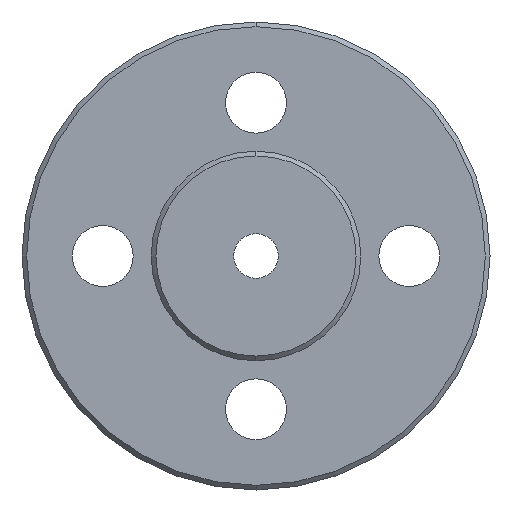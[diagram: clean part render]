
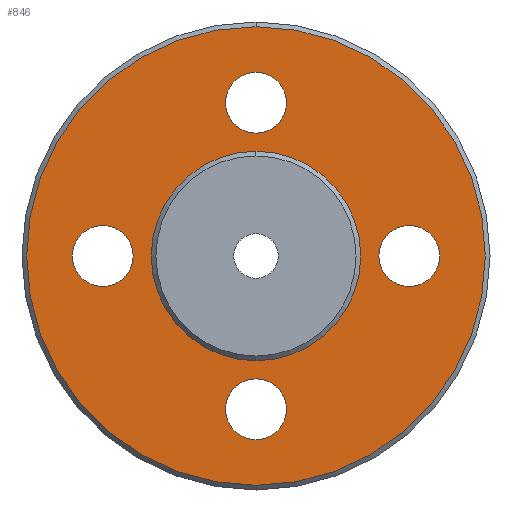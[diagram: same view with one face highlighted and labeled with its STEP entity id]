
A CAD part, front view. The second image highlights one B-rep face of the part: STEP entity #846.
In plain terms, the highlighted planar face has unit normal (0, -1, 0).
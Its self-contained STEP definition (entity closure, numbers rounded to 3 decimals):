
#6 = VERTEX_POINT ( 'NONE', #169 ) ;
#30 = AXIS2_PLACEMENT_3D ( 'NONE', #887, #1357, #306 ) ;
#35 = CIRCLE ( 'NONE', #439, 1.3 ) ;
#58 = DIRECTION ( 'NONE',  ( 0., 1., 0. ) ) ;
#70 = CARTESIAN_POINT ( 'NONE',  ( 0., 0., 4.475 ) ) ;
#75 = AXIS2_PLACEMENT_3D ( 'NONE', #2570, #1455, #1257 ) ;
#77 = DIRECTION ( 'NONE',  ( 0., -1., 0. ) ) ;
#121 = ORIENTED_EDGE ( 'NONE', *, *, #703, .T. ) ;
#154 = DIRECTION ( 'NONE',  ( 0., 0., 1. ) ) ;
#166 = AXIS2_PLACEMENT_3D ( 'NONE', #2412, #1138, #482 ) ;
#169 = CARTESIAN_POINT ( 'NONE',  ( 6.55, 0., -1.3 ) ) ;
#288 = CARTESIAN_POINT ( 'NONE',  ( 0., 0., 0. ) ) ;
#293 = DIRECTION ( 'NONE',  ( 0., 1., 0. ) ) ;
#306 = DIRECTION ( 'NONE',  ( 0., 0., 1. ) ) ;
#340 = DIRECTION ( 'NONE',  ( 0., 0., 1. ) ) ;
#351 = DIRECTION ( 'NONE',  ( 0., -1., 0. ) ) ;
#380 = AXIS2_PLACEMENT_3D ( 'NONE', #2110, #596, #1003 ) ;
#383 = DIRECTION ( 'NONE',  ( 0., -1., 0. ) ) ;
#417 = CARTESIAN_POINT ( 'NONE',  ( 0., 0., 0. ) ) ;
#418 = CIRCLE ( 'NONE', #595, 1.3 ) ;
#424 = ORIENTED_EDGE ( 'NONE', *, *, #2773, .F. ) ;
#438 = DIRECTION ( 'NONE',  ( 0., 0., 1. ) ) ;
#439 = AXIS2_PLACEMENT_3D ( 'NONE', #1281, #1061, #1485 ) ;
#478 = CARTESIAN_POINT ( 'NONE',  ( -6.55, 0., 0. ) ) ;
#482 = DIRECTION ( 'NONE',  ( 0., 0., 1. ) ) ;
#493 = DIRECTION ( 'NONE',  ( 0., 0., 1. ) ) ;
#554 = ORIENTED_EDGE ( 'NONE', *, *, #1495, .T. ) ;
#595 = AXIS2_PLACEMENT_3D ( 'NONE', #2057, #2322, #1216 ) ;
#596 = DIRECTION ( 'NONE',  ( 0., -1., 0. ) ) ;
#652 = EDGE_CURVE ( 'NONE', #715, #1320, #1508, .T. ) ;
#664 = FACE_BOUND ( 'NONE', #669, .T. ) ;
#669 = EDGE_LOOP ( 'NONE', ( #2764, #121 ) ) ;
#703 = EDGE_CURVE ( 'NONE', #2314, #1529, #35, .T. ) ;
#715 = VERTEX_POINT ( 'NONE', #1688 ) ;
#732 = CIRCLE ( 'NONE', #1048, 1.3 ) ;
#829 = EDGE_CURVE ( 'NONE', #1223, #1883, #1097, .T. ) ;
#846 = ADVANCED_FACE ( 'NONE', ( #1784, #664, #1110, #1342, #1974, #1765 ), #2624, .F. ) ;
#847 = VERTEX_POINT ( 'NONE', #2216 ) ;
#849 = CARTESIAN_POINT ( 'NONE',  ( 0., 0., -9.8 ) ) ;
#873 = EDGE_CURVE ( 'NONE', #1320, #715, #874, .T. ) ;
#874 = CIRCLE ( 'NONE', #30, 1.3 ) ;
#887 = CARTESIAN_POINT ( 'NONE',  ( 0., 0., 6.55 ) ) ;
#895 = CARTESIAN_POINT ( 'NONE',  ( 0., 0., -6.55 ) ) ;
#977 = DIRECTION ( 'NONE',  ( 0., 1., 0. ) ) ;
#1003 = DIRECTION ( 'NONE',  ( 0., 0., 1. ) ) ;
#1005 = ORIENTED_EDGE ( 'NONE', *, *, #1014, .T. ) ;
#1014 = EDGE_CURVE ( 'NONE', #1100, #1134, #2679, .T. ) ;
#1044 = AXIS2_PLACEMENT_3D ( 'NONE', #2083, #977, #154 ) ;
#1048 = AXIS2_PLACEMENT_3D ( 'NONE', #478, #58, #1148 ) ;
#1061 = DIRECTION ( 'NONE',  ( 0., 1., 0. ) ) ;
#1084 = CIRCLE ( 'NONE', #380, 4.475 ) ;
#1097 = CIRCLE ( 'NONE', #2229, 4.475 ) ;
#1100 = VERTEX_POINT ( 'NONE', #1923 ) ;
#1104 = CARTESIAN_POINT ( 'NONE',  ( -6.55, 0., 1.3 ) ) ;
#1110 = FACE_BOUND ( 'NONE', #1491, .T. ) ;
#1134 = VERTEX_POINT ( 'NONE', #849 ) ;
#1138 = DIRECTION ( 'NONE',  ( 0., 1., 0. ) ) ;
#1148 = DIRECTION ( 'NONE',  ( 0., 0., 1. ) ) ;
#1175 = CIRCLE ( 'NONE', #1220, 1.3 ) ;
#1216 = DIRECTION ( 'NONE',  ( 0., 0., 1. ) ) ;
#1220 = AXIS2_PLACEMENT_3D ( 'NONE', #895, #293, #2009 ) ;
#1223 = VERTEX_POINT ( 'NONE', #70 ) ;
#1257 = DIRECTION ( 'NONE',  ( 0., 0., 1. ) ) ;
#1281 = CARTESIAN_POINT ( 'NONE',  ( -6.55, 0., 0. ) ) ;
#1283 = EDGE_CURVE ( 'NONE', #1529, #2314, #732, .T. ) ;
#1320 = VERTEX_POINT ( 'NONE', #1864 ) ;
#1342 = FACE_BOUND ( 'NONE', #2162, .T. ) ;
#1357 = DIRECTION ( 'NONE',  ( 0., 1., 0. ) ) ;
#1455 = DIRECTION ( 'NONE',  ( 0., 1., 0. ) ) ;
#1485 = DIRECTION ( 'NONE',  ( 0., 0., 1. ) ) ;
#1491 = EDGE_LOOP ( 'NONE', ( #2102, #2239 ) ) ;
#1495 = EDGE_CURVE ( 'NONE', #6, #847, #2637, .T. ) ;
#1508 = CIRCLE ( 'NONE', #75, 1.3 ) ;
#1529 = VERTEX_POINT ( 'NONE', #2206 ) ;
#1637 = EDGE_CURVE ( 'NONE', #2071, #2447, #1175, .T. ) ;
#1688 = CARTESIAN_POINT ( 'NONE',  ( 0., 0., 7.85 ) ) ;
#1765 = FACE_BOUND ( 'NONE', #2509, .T. ) ;
#1777 = EDGE_CURVE ( 'NONE', #2447, #2071, #418, .T. ) ;
#1784 = FACE_OUTER_BOUND ( 'NONE', #2319, .T. ) ;
#1864 = CARTESIAN_POINT ( 'NONE',  ( 0., 0., 5.25 ) ) ;
#1872 = ORIENTED_EDGE ( 'NONE', *, *, #2481, .T. ) ;
#1874 = CARTESIAN_POINT ( 'NONE',  ( 0., 0., -7.85 ) ) ;
#1883 = VERTEX_POINT ( 'NONE', #2025 ) ;
#1923 = CARTESIAN_POINT ( 'NONE',  ( 0., 0., 9.8 ) ) ;
#1943 = CIRCLE ( 'NONE', #1044, 1.3 ) ;
#1958 = CARTESIAN_POINT ( 'NONE',  ( 6.55, 0., 0. ) ) ;
#1974 = FACE_BOUND ( 'NONE', #2021, .T. ) ;
#2009 = DIRECTION ( 'NONE',  ( 0., 0., 1. ) ) ;
#2021 = EDGE_LOOP ( 'NONE', ( #2096, #2243 ) ) ;
#2025 = CARTESIAN_POINT ( 'NONE',  ( 0., 0., -4.475 ) ) ;
#2056 = AXIS2_PLACEMENT_3D ( 'NONE', #1958, #2562, #438 ) ;
#2057 = CARTESIAN_POINT ( 'NONE',  ( 0., 0., -6.55 ) ) ;
#2071 = VERTEX_POINT ( 'NONE', #2297 ) ;
#2083 = CARTESIAN_POINT ( 'NONE',  ( 6.55, 0., 0. ) ) ;
#2096 = ORIENTED_EDGE ( 'NONE', *, *, #1777, .T. ) ;
#2102 = ORIENTED_EDGE ( 'NONE', *, *, #873, .T. ) ;
#2110 = CARTESIAN_POINT ( 'NONE',  ( 0., 0., 0. ) ) ;
#2130 = AXIS2_PLACEMENT_3D ( 'NONE', #2488, #383, #340 ) ;
#2162 = EDGE_LOOP ( 'NONE', ( #554, #1872 ) ) ;
#2206 = CARTESIAN_POINT ( 'NONE',  ( -6.55, 0., -1.3 ) ) ;
#2216 = CARTESIAN_POINT ( 'NONE',  ( 6.55, 0., 1.3 ) ) ;
#2220 = ORIENTED_EDGE ( 'NONE', *, *, #829, .F. ) ;
#2229 = AXIS2_PLACEMENT_3D ( 'NONE', #288, #77, #493 ) ;
#2239 = ORIENTED_EDGE ( 'NONE', *, *, #652, .T. ) ;
#2243 = ORIENTED_EDGE ( 'NONE', *, *, #1637, .T. ) ;
#2276 = DIRECTION ( 'NONE',  ( 0., 0., 1. ) ) ;
#2283 = ORIENTED_EDGE ( 'NONE', *, *, #2480, .T. ) ;
#2297 = CARTESIAN_POINT ( 'NONE',  ( 0., 0., -5.25 ) ) ;
#2314 = VERTEX_POINT ( 'NONE', #1104 ) ;
#2319 = EDGE_LOOP ( 'NONE', ( #1005, #2283 ) ) ;
#2322 = DIRECTION ( 'NONE',  ( 0., 1., 0. ) ) ;
#2349 = CIRCLE ( 'NONE', #2130, 9.8 ) ;
#2412 = CARTESIAN_POINT ( 'NONE',  ( 0., 0., 0. ) ) ;
#2447 = VERTEX_POINT ( 'NONE', #1874 ) ;
#2480 = EDGE_CURVE ( 'NONE', #1134, #1100, #2349, .T. ) ;
#2481 = EDGE_CURVE ( 'NONE', #847, #6, #1943, .T. ) ;
#2488 = CARTESIAN_POINT ( 'NONE',  ( 0., 0., 0. ) ) ;
#2509 = EDGE_LOOP ( 'NONE', ( #2220, #424 ) ) ;
#2562 = DIRECTION ( 'NONE',  ( 0., 1., 0. ) ) ;
#2570 = CARTESIAN_POINT ( 'NONE',  ( 0., 0., 6.55 ) ) ;
#2624 = PLANE ( 'NONE',  #166 ) ;
#2637 = CIRCLE ( 'NONE', #2056, 1.3 ) ;
#2679 = CIRCLE ( 'NONE', #2772, 9.8 ) ;
#2764 = ORIENTED_EDGE ( 'NONE', *, *, #1283, .T. ) ;
#2772 = AXIS2_PLACEMENT_3D ( 'NONE', #417, #351, #2276 ) ;
#2773 = EDGE_CURVE ( 'NONE', #1883, #1223, #1084, .T. ) ;
